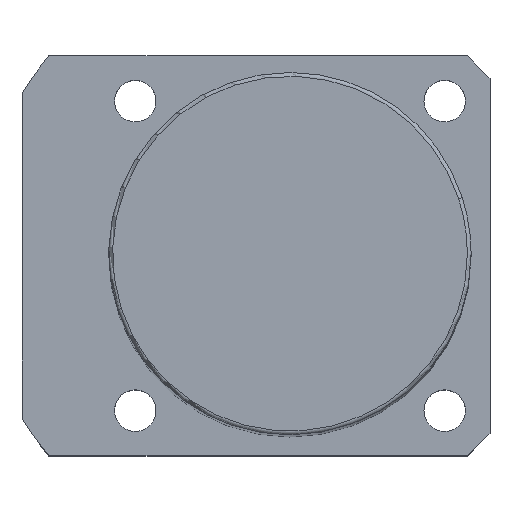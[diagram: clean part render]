
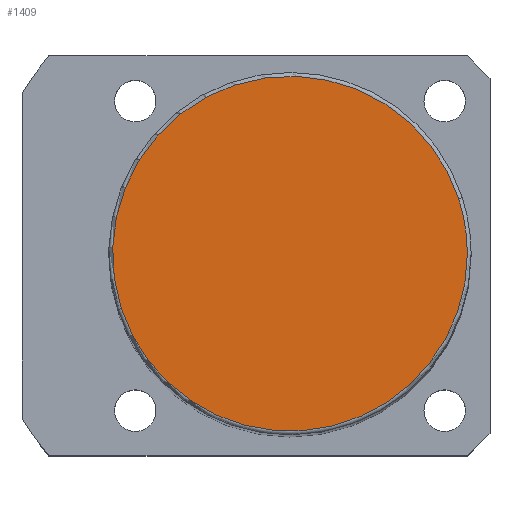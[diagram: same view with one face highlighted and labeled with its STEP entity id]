
A CAD part, top view. The second image highlights one B-rep face of the part: STEP entity #1409.
In plain terms, the highlighted planar face has unit normal (0, 0, 1).
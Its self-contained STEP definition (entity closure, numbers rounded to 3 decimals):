
#1342=CARTESIAN_POINT('',(22.35,7.262,179.0));
#1343=VERTEX_POINT('',#1342);
#1361=CARTESIAN_POINT('',(-22.35,-7.262,179.0));
#1362=VERTEX_POINT('',#1361);
#1370=CARTESIAN_POINT('',(0.0,0.0,179.0));
#1371=DIRECTION('',(0.0,0.0,1.0));
#1372=DIRECTION('',(1.0,0.0,0.0));
#1373=AXIS2_PLACEMENT_3D('',#1370,#1371,#1372);
#1374=CIRCLE('',#1373,23.5);
#1375=EDGE_CURVE('no 1873',#1343,#1362,#1374,.T.);
#1385=CARTESIAN_POINT('',(23.5,0.0,179.0));
#1386=VERTEX_POINT('',#1385);
#1387=CARTESIAN_POINT('',(0.0,0.0,179.0));
#1388=DIRECTION('',(0.0,0.0,1.0));
#1389=DIRECTION('',(1.0,0.0,0.0));
#1390=AXIS2_PLACEMENT_3D('',#1387,#1388,#1389);
#1391=CIRCLE('',#1390,23.5);
#1392=EDGE_CURVE('no 1882',#1386,#1343,#1391,.T.);
#1393=ORIENTED_EDGE('',*,*,#1392,.T.);
#1394=ORIENTED_EDGE('',*,*,#1375,.T.);
#1395=CARTESIAN_POINT('',(0.0,0.0,179.0));
#1396=DIRECTION('',(0.0,0.0,1.0));
#1397=DIRECTION('',(1.0,0.0,0.0));
#1398=AXIS2_PLACEMENT_3D('',#1395,#1396,#1397);
#1399=CIRCLE('',#1398,23.5);
#1400=EDGE_CURVE('no 1888',#1362,#1386,#1399,.T.);
#1401=ORIENTED_EDGE('',*,*,#1400,.T.);
#1402=EDGE_LOOP('',(#1393,#1394,#1401));
#1403=FACE_OUTER_BOUND('',#1402,.T.);
#1404=CARTESIAN_POINT('',(0.0,0.0,179.0));
#1405=DIRECTION('',(0.0,0.0,1.0));
#1406=DIRECTION('',(1.0,0.0,0.0));
#1407=AXIS2_PLACEMENT_3D('',#1404,#1405,#1406);
#1408=PLANE('',#1407);
#1409=ADVANCED_FACE('no 1875',(#1403),#1408,.T.);
